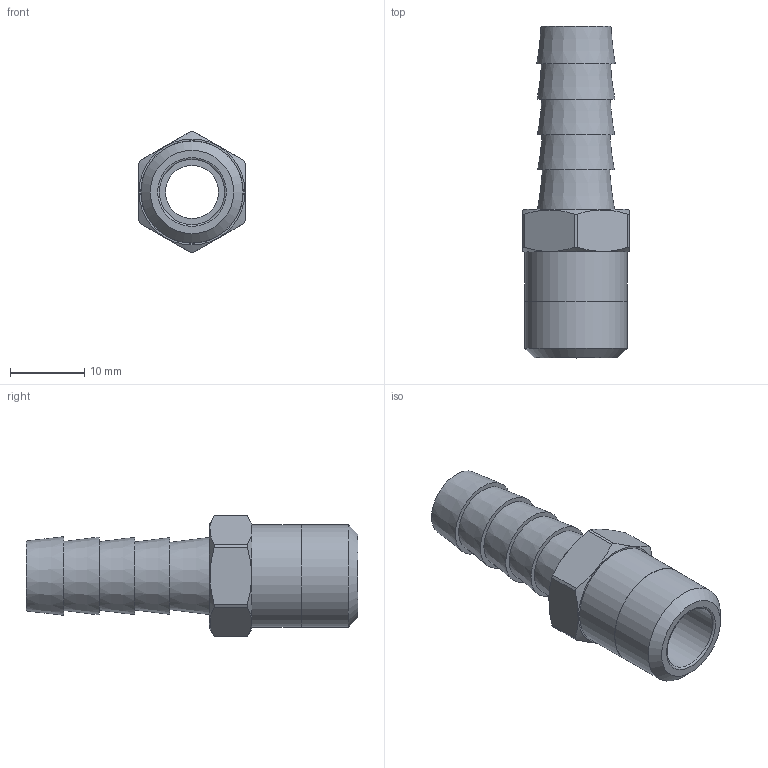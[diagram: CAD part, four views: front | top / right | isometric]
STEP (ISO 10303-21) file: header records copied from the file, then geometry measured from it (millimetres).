
FILE_DESCRIPTION(/* description */ (''),/* implementation_level */ '2;1');
FILE_NAME(/* name */ 'C:/Users/drich/Desktop/MB38-4 v1.step',/* time_stamp */ '2020-02-02T14:55:15-06:00',/* author */ (''),/* organization */ (''),/* preprocessor_version */ 'ST-DEVELOPER v18',/* originating_system */ 'Autodesk Translation Framework v8.12.0.6',/* authorisation */ '');
FILE_SCHEMA (('AUTOMOTIVE_DESIGN { 1 0 10303 214 3 1 1 }'));
Length unit declared in the file: inch
Products named in the file (2): MB38-4; 38 BARB ONLY
Assembly tree (1 placements, depth 2):
  MB38-4
    38 BARB ONLY
Bounding box: 14.27 x 44.58 x 16.26 mm (x, y, z)
Volume: 2763.9 mm3; surface area: 3083.4 mm2
Topology: 2 solids, 2 shells, 36 faces, 95 edges, 68 vertices
Faces by surface type: plane 15, cone 10, cylinder 10, torus 1
Full cylindrical faces by diameter (mm): 7.112 x1, 8.738 x1, 13.716 x1, 13.767 x1
Entity records: 1227 total; most frequent: CARTESIAN_POINT 226, DIRECTION 218, ORIENTED_EDGE 190, AXIS2_PLACEMENT_3D 96, EDGE_CURVE 95, VERTEX_POINT 68, CIRCLE 57, EDGE_LOOP 45
